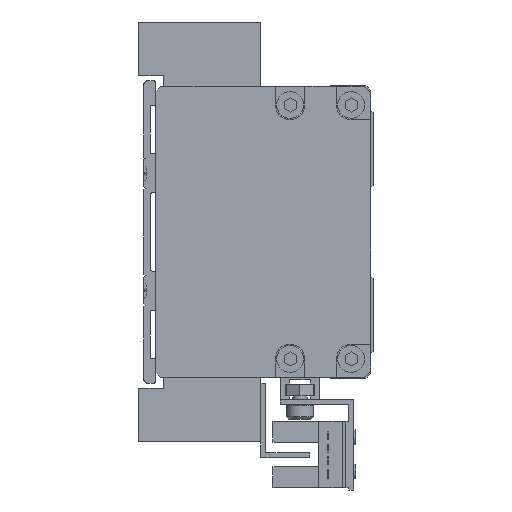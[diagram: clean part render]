
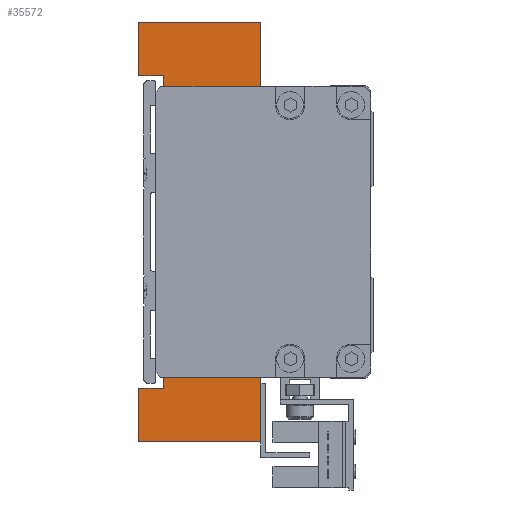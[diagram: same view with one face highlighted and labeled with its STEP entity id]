
A CAD part, left-side view. The second image highlights one B-rep face of the part: STEP entity #35572.
In plain terms, the highlighted planar face has unit normal (-1, 0, 0).
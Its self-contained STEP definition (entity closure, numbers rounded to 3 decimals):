
#257 = DIRECTION ( 'NONE',  ( 0., 1., 0. ) ) ;
#332 = VERTEX_POINT ( 'NONE', #13755 ) ;
#763 = CARTESIAN_POINT ( 'NONE',  ( -77., 0., -43. ) ) ;
#831 = VERTEX_POINT ( 'NONE', #34660 ) ;
#887 = DIRECTION ( 'NONE',  ( 0., -1., 0. ) ) ;
#1172 = ORIENTED_EDGE ( 'NONE', *, *, #9841, .F. ) ;
#2415 = CARTESIAN_POINT ( 'NONE',  ( -77., 5., -21. ) ) ;
#2602 = ORIENTED_EDGE ( 'NONE', *, *, #9527, .F. ) ;
#2676 = EDGE_CURVE ( 'NONE', #9463, #14807, #14292, .T. ) ;
#3196 = LINE ( 'NONE', #12953, #39160 ) ;
#3322 = CARTESIAN_POINT ( 'NONE',  ( -77., 10., 0. ) ) ;
#3347 = EDGE_CURVE ( 'NONE', #21089, #9463, #13742, .T. ) ;
#3758 = LINE ( 'NONE', #16784, #11016 ) ;
#3781 = VERTEX_POINT ( 'NONE', #21998 ) ;
#4022 = CARTESIAN_POINT ( 'NONE',  ( -77., 5., -21. ) ) ;
#4084 = CARTESIAN_POINT ( 'NONE',  ( -77., 10., 21. ) ) ;
#4181 = CARTESIAN_POINT ( 'NONE',  ( -77., 5., 28. ) ) ;
#4512 = DIRECTION ( 'NONE',  ( 0., -1., 0. ) ) ;
#4907 = VERTEX_POINT ( 'NONE', #4022 ) ;
#5201 = EDGE_CURVE ( 'NONE', #10265, #36715, #12247, .T. ) ;
#5643 = EDGE_CURVE ( 'NONE', #7074, #831, #20384, .T. ) ;
#6327 = VERTEX_POINT ( 'NONE', #17538 ) ;
#6395 = EDGE_CURVE ( 'NONE', #26157, #32243, #36037, .T. ) ;
#6415 = DIRECTION ( 'NONE',  ( 0., 0., -1. ) ) ;
#6503 = VERTEX_POINT ( 'NONE', #18135 ) ;
#6937 = CARTESIAN_POINT ( 'NONE',  ( -77., 0., 43. ) ) ;
#7074 = VERTEX_POINT ( 'NONE', #14858 ) ;
#7141 = CARTESIAN_POINT ( 'NONE',  ( -77., 25., 43. ) ) ;
#7289 = EDGE_CURVE ( 'NONE', #38525, #33283, #10116, .T. ) ;
#7383 = ORIENTED_EDGE ( 'NONE', *, *, #21946, .F. ) ;
#7641 = ORIENTED_EDGE ( 'NONE', *, *, #3347, .F. ) ;
#8350 = DIRECTION ( 'NONE',  ( 0., 0., 1. ) ) ;
#8394 = LINE ( 'NONE', #11675, #39092 ) ;
#8399 = EDGE_CURVE ( 'NONE', #3781, #33283, #3758, .T. ) ;
#9127 = CARTESIAN_POINT ( 'NONE',  ( -77., 25., -32. ) ) ;
#9463 = VERTEX_POINT ( 'NONE', #20236 ) ;
#9527 = EDGE_CURVE ( 'NONE', #6327, #10265, #34395, .T. ) ;
#9841 = EDGE_CURVE ( 'NONE', #332, #32243, #3196, .T. ) ;
#9871 = VECTOR ( 'NONE', #23883, 1000. ) ;
#9949 = LINE ( 'NONE', #25562, #20517 ) ;
#10116 = LINE ( 'NONE', #4181, #20234 ) ;
#10136 = DIRECTION ( 'NONE',  ( 0., 0., -1. ) ) ;
#10265 = VERTEX_POINT ( 'NONE', #33875 ) ;
#10670 = CARTESIAN_POINT ( 'NONE',  ( -77., 5., 28. ) ) ;
#10685 = ORIENTED_EDGE ( 'NONE', *, *, #2676, .F. ) ;
#10708 = VECTOR ( 'NONE', #257, 1000. ) ;
#10759 = EDGE_CURVE ( 'NONE', #6503, #19614, #8394, .T. ) ;
#10961 = EDGE_CURVE ( 'NONE', #19614, #21089, #38116, .T. ) ;
#11016 = VECTOR ( 'NONE', #4512, 1000. ) ;
#11675 = CARTESIAN_POINT ( 'NONE',  ( -77., 25., -43. ) ) ;
#12247 = LINE ( 'NONE', #23875, #29980 ) ;
#12765 = ORIENTED_EDGE ( 'NONE', *, *, #7289, .F. ) ;
#12953 = CARTESIAN_POINT ( 'NONE',  ( -77., 10., 21. ) ) ;
#13371 = DIRECTION ( 'NONE',  ( 0., -1., 0. ) ) ;
#13651 = ORIENTED_EDGE ( 'NONE', *, *, #38809, .F. ) ;
#13742 = LINE ( 'NONE', #30110, #36149 ) ;
#13755 = CARTESIAN_POINT ( 'NONE',  ( -77., 10., 21. ) ) ;
#14083 = ORIENTED_EDGE ( 'NONE', *, *, #10759, .F. ) ;
#14292 = LINE ( 'NONE', #30237, #31987 ) ;
#14807 = VERTEX_POINT ( 'NONE', #20915 ) ;
#14810 = DIRECTION ( 'NONE',  ( 0., 0., 1. ) ) ;
#14858 = CARTESIAN_POINT ( 'NONE',  ( -77., 0., 43. ) ) ;
#15659 = LINE ( 'NONE', #23894, #38117 ) ;
#16778 = ORIENTED_EDGE ( 'NONE', *, *, #10961, .F. ) ;
#16784 = CARTESIAN_POINT ( 'NONE',  ( -77., 9., 21. ) ) ;
#17017 = EDGE_LOOP ( 'NONE', ( #22059, #21980, #12765, #27826, #29839, #13651, #30380, #10685, #7641, #16778, #14083, #7383, #39433, #2602, #28528, #27262, #23479, #1172 ) ) ;
#17538 = CARTESIAN_POINT ( 'NONE',  ( -77., 5., -28. ) ) ;
#18135 = CARTESIAN_POINT ( 'NONE',  ( -77., 25., -43. ) ) ;
#18819 = PLANE ( 'NONE',  #31920 ) ;
#19483 = EDGE_CURVE ( 'NONE', #831, #38525, #29467, .T. ) ;
#19486 = CARTESIAN_POINT ( 'NONE',  ( -77., 5., 21. ) ) ;
#19614 = VERTEX_POINT ( 'NONE', #9127 ) ;
#19633 = CARTESIAN_POINT ( 'NONE',  ( -77., 10., -21. ) ) ;
#20234 = VECTOR ( 'NONE', #10136, 1000. ) ;
#20236 = CARTESIAN_POINT ( 'NONE',  ( -77., 20., 32. ) ) ;
#20384 = LINE ( 'NONE', #6937, #30432 ) ;
#20443 = DIRECTION ( 'NONE',  ( 0., 0., -1. ) ) ;
#20517 = VECTOR ( 'NONE', #13371, 1000. ) ;
#20915 = CARTESIAN_POINT ( 'NONE',  ( -77., 25., 32. ) ) ;
#21089 = VERTEX_POINT ( 'NONE', #35631 ) ;
#21400 = LINE ( 'NONE', #2415, #9871 ) ;
#21539 = DIRECTION ( 'NONE',  ( 0., 1., 0. ) ) ;
#21635 = LINE ( 'NONE', #763, #32590 ) ;
#21946 = EDGE_CURVE ( 'NONE', #36715, #6503, #21635, .T. ) ;
#21980 = ORIENTED_EDGE ( 'NONE', *, *, #8399, .T. ) ;
#21998 = CARTESIAN_POINT ( 'NONE',  ( -77., 9., 21. ) ) ;
#22059 = ORIENTED_EDGE ( 'NONE', *, *, #39558, .T. ) ;
#22097 = VECTOR ( 'NONE', #29073, 1000. ) ;
#22166 = CARTESIAN_POINT ( 'NONE',  ( -77., 9., -21. ) ) ;
#22730 = DIRECTION ( 'NONE',  ( 0., 0., -1. ) ) ;
#22830 = CARTESIAN_POINT ( 'NONE',  ( -77., 0., -43. ) ) ;
#23479 = ORIENTED_EDGE ( 'NONE', *, *, #6395, .T. ) ;
#23636 = EDGE_CURVE ( 'NONE', #26157, #4907, #9949, .T. ) ;
#23875 = CARTESIAN_POINT ( 'NONE',  ( -77., 0., -28. ) ) ;
#23883 = DIRECTION ( 'NONE',  ( 0., 0., -1. ) ) ;
#23889 = CARTESIAN_POINT ( 'NONE',  ( -77., 0., 28. ) ) ;
#23894 = CARTESIAN_POINT ( 'NONE',  ( -77., 25., 32. ) ) ;
#23919 = CARTESIAN_POINT ( 'NONE',  ( -77., 5., -28. ) ) ;
#25332 = VECTOR ( 'NONE', #29719, 1000. ) ;
#25562 = CARTESIAN_POINT ( 'NONE',  ( -77., 9., -21. ) ) ;
#26157 = VERTEX_POINT ( 'NONE', #36605 ) ;
#27262 = ORIENTED_EDGE ( 'NONE', *, *, #23636, .F. ) ;
#27826 = ORIENTED_EDGE ( 'NONE', *, *, #19483, .F. ) ;
#27951 = DIRECTION ( 'NONE',  ( 0., -1., 0. ) ) ;
#28498 = VECTOR ( 'NONE', #36564, 1000. ) ;
#28528 = ORIENTED_EDGE ( 'NONE', *, *, #36366, .F. ) ;
#29073 = DIRECTION ( 'NONE',  ( 0., -1., 0. ) ) ;
#29467 = LINE ( 'NONE', #23889, #28498 ) ;
#29719 = DIRECTION ( 'NONE',  ( 0., -1., 0. ) ) ;
#29839 = ORIENTED_EDGE ( 'NONE', *, *, #5643, .F. ) ;
#29980 = VECTOR ( 'NONE', #20443, 1000. ) ;
#30040 = VECTOR ( 'NONE', #887, 1000. ) ;
#30110 = CARTESIAN_POINT ( 'NONE',  ( -77., 20., -32. ) ) ;
#30237 = CARTESIAN_POINT ( 'NONE',  ( -77., 20., 32. ) ) ;
#30303 = LINE ( 'NONE', #31137, #31721 ) ;
#30380 = ORIENTED_EDGE ( 'NONE', *, *, #31854, .F. ) ;
#30432 = VECTOR ( 'NONE', #34546, 1000. ) ;
#30720 = DIRECTION ( 'NONE',  ( 1., 0., 0. ) ) ;
#30723 = LINE ( 'NONE', #4084, #22097 ) ;
#31083 = DIRECTION ( 'NONE',  ( 0., 0., 1. ) ) ;
#31137 = CARTESIAN_POINT ( 'NONE',  ( -77., 25., 43. ) ) ;
#31483 = DIRECTION ( 'NONE',  ( 0., 1., 0. ) ) ;
#31712 = VERTEX_POINT ( 'NONE', #7141 ) ;
#31721 = VECTOR ( 'NONE', #27951, 1000. ) ;
#31854 = EDGE_CURVE ( 'NONE', #14807, #31712, #15659, .T. ) ;
#31920 = AXIS2_PLACEMENT_3D ( 'NONE', #3322, #30720, #6415 ) ;
#31987 = VECTOR ( 'NONE', #21539, 1000. ) ;
#32243 = VERTEX_POINT ( 'NONE', #19633 ) ;
#32590 = VECTOR ( 'NONE', #31483, 1000. ) ;
#33283 = VERTEX_POINT ( 'NONE', #19486 ) ;
#33875 = CARTESIAN_POINT ( 'NONE',  ( -77., 0., -28. ) ) ;
#34395 = LINE ( 'NONE', #23919, #25332 ) ;
#34546 = DIRECTION ( 'NONE',  ( 0., 0., -1. ) ) ;
#34660 = CARTESIAN_POINT ( 'NONE',  ( -77., 0., 28. ) ) ;
#35572 = ADVANCED_FACE ( 'NONE', ( #39704 ), #18819, .F. ) ;
#35631 = CARTESIAN_POINT ( 'NONE',  ( -77., 20., -32. ) ) ;
#36037 = LINE ( 'NONE', #22166, #10708 ) ;
#36149 = VECTOR ( 'NONE', #8350, 1000. ) ;
#36366 = EDGE_CURVE ( 'NONE', #4907, #6327, #21400, .T. ) ;
#36564 = DIRECTION ( 'NONE',  ( 0., 1., 0. ) ) ;
#36605 = CARTESIAN_POINT ( 'NONE',  ( -77., 9., -21. ) ) ;
#36715 = VERTEX_POINT ( 'NONE', #22830 ) ;
#37315 = CARTESIAN_POINT ( 'NONE',  ( -77., 25., -32. ) ) ;
#38116 = LINE ( 'NONE', #37315, #30040 ) ;
#38117 = VECTOR ( 'NONE', #14810, 1000. ) ;
#38525 = VERTEX_POINT ( 'NONE', #10670 ) ;
#38809 = EDGE_CURVE ( 'NONE', #31712, #7074, #30303, .T. ) ;
#39092 = VECTOR ( 'NONE', #31083, 1000. ) ;
#39160 = VECTOR ( 'NONE', #22730, 1000. ) ;
#39433 = ORIENTED_EDGE ( 'NONE', *, *, #5201, .F. ) ;
#39558 = EDGE_CURVE ( 'NONE', #332, #3781, #30723, .T. ) ;
#39704 = FACE_OUTER_BOUND ( 'NONE', #17017, .T. ) ;
